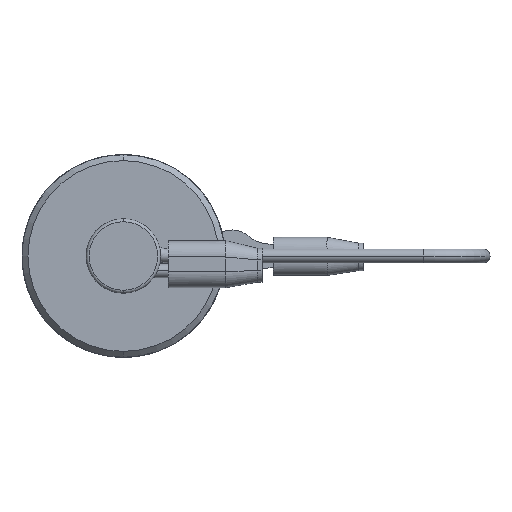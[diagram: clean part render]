
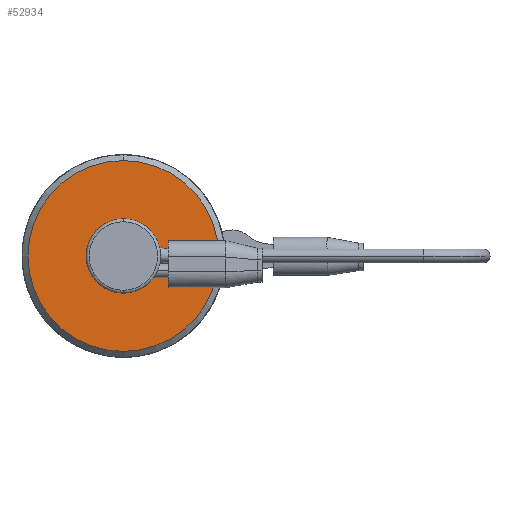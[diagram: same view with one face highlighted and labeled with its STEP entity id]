
A CAD part, left-side view. The second image highlights one B-rep face of the part: STEP entity #52934.
In plain terms, the highlighted planar face has unit normal (-1, 0, 0).
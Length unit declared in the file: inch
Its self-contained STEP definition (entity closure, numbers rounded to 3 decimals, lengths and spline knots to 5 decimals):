
#108 = AXIS2_PLACEMENT_3D ( 'NONE', #82107, #14709, #65377 ) ;
#305 = PLANE ( 'NONE',  #63550 ) ;
#7744 = DIRECTION ( 'NONE',  ( -1., 0., 0. ) ) ;
#13980 = DIRECTION ( 'NONE',  ( 0., 0., 1. ) ) ;
#14709 = DIRECTION ( 'NONE',  ( 1., 0., 0. ) ) ;
#15571 = VERTEX_POINT ( 'NONE', #27463 ) ;
#16915 = DIRECTION ( 'NONE',  ( 1., 0., 0. ) ) ;
#20192 = CIRCLE ( 'NONE', #22797, 0.25 ) ;
#22797 = AXIS2_PLACEMENT_3D ( 'NONE', #48908, #61381, #82086 ) ;
#26486 = AXIS2_PLACEMENT_3D ( 'NONE', #28717, #72321, #40752 ) ;
#27463 = CARTESIAN_POINT ( 'NONE',  ( 0.25, 0., -0.6405 ) ) ;
#28717 = CARTESIAN_POINT ( 'NONE',  ( 0.25, 0., 0. ) ) ;
#31218 = ORIENTED_EDGE ( 'NONE', *, *, #75373, .T. ) ;
#34578 = AXIS2_PLACEMENT_3D ( 'NONE', #35154, #16915, #40976 ) ;
#35154 = CARTESIAN_POINT ( 'NONE',  ( 0.25, 0., 0. ) ) ;
#35615 = EDGE_LOOP ( 'NONE', ( #74109, #41185 ) ) ;
#40683 = VERTEX_POINT ( 'NONE', #63891 ) ;
#40752 = DIRECTION ( 'NONE',  ( 0., 0., -1. ) ) ;
#40774 = EDGE_LOOP ( 'NONE', ( #31218, #57825 ) ) ;
#40976 = DIRECTION ( 'NONE',  ( 0., 0., -1. ) ) ;
#41185 = ORIENTED_EDGE ( 'NONE', *, *, #46337, .F. ) ;
#41912 = EDGE_CURVE ( 'NONE', #15571, #74482, #45159, .T. ) ;
#45159 = CIRCLE ( 'NONE', #34578, 0.6405 ) ;
#46337 = EDGE_CURVE ( 'NONE', #74482, #15571, #74211, .T. ) ;
#48296 = CARTESIAN_POINT ( 'NONE',  ( 0.25, 0., 0.6405 ) ) ;
#48908 = CARTESIAN_POINT ( 'NONE',  ( 0.25, 0., 0. ) ) ;
#50139 = FACE_BOUND ( 'NONE', #40774, .T. ) ;
#51379 = CARTESIAN_POINT ( 'NONE',  ( 0.25, 0.6405, 0. ) ) ;
#52934 = ADVANCED_FACE ( 'NONE', ( #50139, #69655 ), #305, .T. ) ;
#57825 = ORIENTED_EDGE ( 'NONE', *, *, #68961, .T. ) ;
#61381 = DIRECTION ( 'NONE',  ( 1., 0., 0. ) ) ;
#63550 = AXIS2_PLACEMENT_3D ( 'NONE', #51379, #7744, #13980 ) ;
#63891 = CARTESIAN_POINT ( 'NONE',  ( 0.25, 0., -0.25 ) ) ;
#65377 = DIRECTION ( 'NONE',  ( 0., 0., -1. ) ) ;
#68961 = EDGE_CURVE ( 'NONE', #81546, #40683, #20192, .T. ) ;
#69655 = FACE_OUTER_BOUND ( 'NONE', #35615, .T. ) ;
#71684 = CIRCLE ( 'NONE', #108, 0.25 ) ;
#72321 = DIRECTION ( 'NONE',  ( 1., 0., 0. ) ) ;
#74109 = ORIENTED_EDGE ( 'NONE', *, *, #41912, .F. ) ;
#74211 = CIRCLE ( 'NONE', #26486, 0.6405 ) ;
#74482 = VERTEX_POINT ( 'NONE', #48296 ) ;
#74587 = CARTESIAN_POINT ( 'NONE',  ( 0.25, 0., 0.25 ) ) ;
#75373 = EDGE_CURVE ( 'NONE', #40683, #81546, #71684, .T. ) ;
#81546 = VERTEX_POINT ( 'NONE', #74587 ) ;
#82086 = DIRECTION ( 'NONE',  ( 0., 0., -1. ) ) ;
#82107 = CARTESIAN_POINT ( 'NONE',  ( 0.25, 0., 0. ) ) ;
